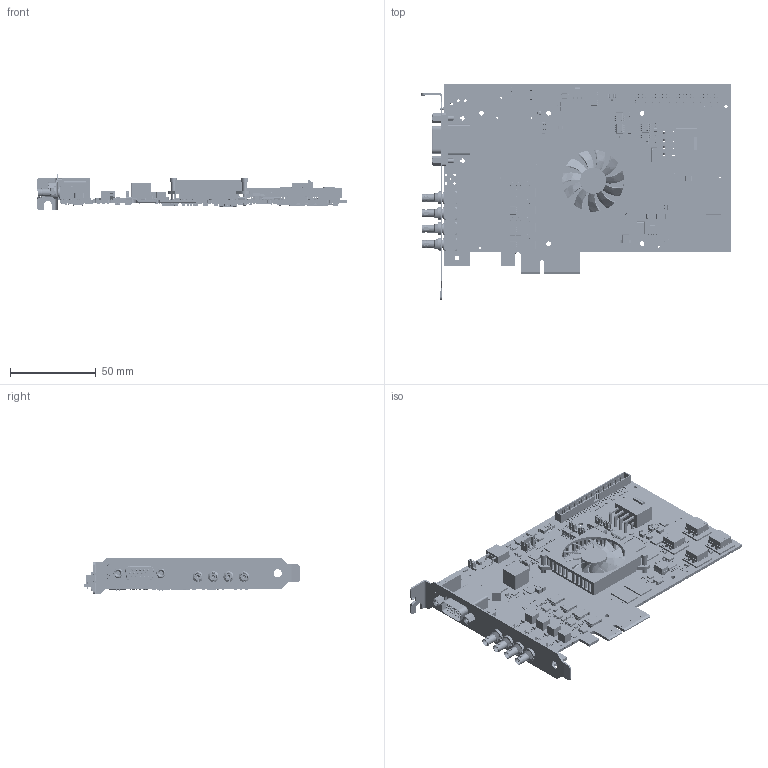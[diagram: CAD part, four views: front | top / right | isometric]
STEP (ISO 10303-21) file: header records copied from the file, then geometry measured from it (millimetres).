
FILE_DESCRIPTION( ( 'Unknown' ), '1' );
FILE_NAME( 'Q:/2003/Product3DCADModels/mm-ap20c11-0081-0301.stp', 'Unknown', ( 'Unknown' ), ( 'Unknown' ), 'PSStep 17.0.49', 'Unknown', ' ' );
FILE_SCHEMA( ( 'AUTOMOTIVE_DESIGN { 1 0 10303 214 1 1 1 1 }' ) );
Length unit declared in the file: millimetre
Products named in the file (969): SW3dPS-TO263-3S_453496017; SW3dPS-TO263-3S_Extruded18; SW3dPS-TO263-3S_453494353; SW3dPS-TO263-3S_Extruded15; SW3dPS-TO263-3S_453494225; SW3dPS-TO263-3S_Extruded17; SW3dPS-TO263-3S_Free-Models9; SW3dPS-TO263-3S_Free-Models8; SW3dPS-TO263-3S_BODY4; SW3dPS-TO263-3S_Board7; SW3dPS-TO263-3S_453496145; SW3dPS-TO263-3S_Extruded13; SW3dPS-TO263-3S_BODY5; SW3dPS-TO263-3S_Board6; SW3dPS-TO263-3S_Free-Models7; SW3dPS-TO263-3S_Free-Models6; SW3dPS-TO263-3S_PIN1; SW3dPS-TO263-3S_Board5; SW3dPS-TO263-3S_449923505; SW3dPS-TO263-3S_Cylinder1; SW3dPS-TO263-3S_450156369; SW3dPS-TO263-3S_Extruded16; SW3dPS-TO263-3S_BODY3; SW3dPS-TO263-3S_Board8; SW3dPS-TO263-3S_450155985; SW3dPS-TO263-3S_Extruded14; Body-1; Open_CASCADE_STEP_translator_6.8_22.2.1; Pin_Shape-2; Open_CASCADE_STEP_translator_6.8_17.4.1; Pin_Shape; Open_CASCADE_STEP_translator_6.8_16.4.1; Body-3; Open_CASCADE_STEP_translator_6.8_8.2.1; SW3dPS-TO263-3S_Free-Models5; Body; Open_CASCADE_STEP_translator_6.8_16.2.1; Body-2; Open_CASCADE_STEP_translator_6.8_17.2.1; M16A_ASM_24_ASM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
Assembly tree (4259 placements, depth 11):
  Assem1
    pcbracket-0365-01
    bnc-nut  x4
    G-085-530T  x2
    G-493-243U  x5
    L3-595
    ZF5S-10-01-X-WT  x2
    L3-711
    L3-92  x5
    Board
      Open CASCADE STEP translator 6.8 3.1.1
        Open CASCADE STEP translator 6.8 3.1.1.1
    C339
      CR1005-0402
      CR1005-0402
      CR1005-0402
      CR1005-0402
    U61
      User_Library-SOT363-2
    R282
      CR1005-0402
      CR1005-0402
      CR1005-0402
      CR1005-0402
    R20
      CR1005-0402
      CR1005-0402
      CR1005-0402
      CR1005-0402
    L18
      Coilcraft-0603AF
      Coilcraft-0603AF
      6145194672
        Extruded
    L16
      Coilcraft-0603AF
      Coilcraft-0603AF
      6145194672
        Extruded
    L12
      Coilcraft-0603AF
      Coilcraft-0603AF
      6145194672
        Extruded
    L10
      Coilcraft-0603AF
      Coilcraft-0603AF
      6145194672
        Extruded
    R179
      6144465616
        Extruded
    R178
      6144465616
        Extruded
    R167
      6144465616
        Extruded
    R166
      6144465616
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Bounding box: 181.14 x 126.38 x 21.48 mm (x, y, z)
Surface area: 88956 mm2 (no closed solid volume)
Topology: 0 solids, 41532 shells, 41532 faces, 206001 edges, 202878 vertices
Faces by surface type: plane 35122, cylinder 4151, sphere 1830, cone 131, extrusion 128, torus 93, bspline 77
Full cylindrical faces by diameter (mm): 0.122 x1, 0.159 x8, 0.164 x7, 0.206 x4, 0.432 x6, 0.45 x480, 0.5 x9, 0.519 x1, 0.527 x2, 0.6 x21, 0.7 x2, 0.76 x5, 0.8 x18, 1 x33, 1.02 x2, 1.1 x4, 1.194 x2, 1.25 x16, 1.4 x8, 1.45 x21, 1.5 x10, 1.7 x4, 1.8 x24, 1.9 x1, 2 x4, 2.156 x2, 2.7 x6, 2.8 x2, 2.84 x2, 3 x9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
Entity records: 561122 total; most frequent: CARTESIAN_POINT 110704, DIRECTION 78716, VERTEX_POINT 44610, ORIENTED_EDGE 44608, EDGE_CURVE 44608, VECTOR 36140, LINE 36108, AXIS2_PLACEMENT_3D 21288
